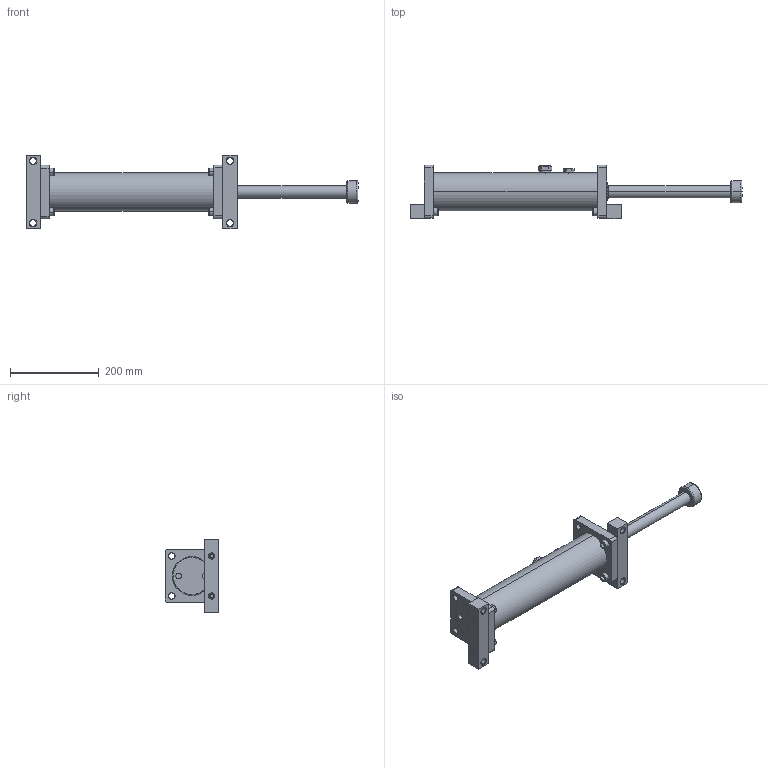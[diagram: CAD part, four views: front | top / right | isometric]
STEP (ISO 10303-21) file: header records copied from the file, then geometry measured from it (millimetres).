
FILE_DESCRIPTION (( 'STEP AP214' ), '1' );
FILE_NAME ('LDD1.5X10.STEP', '2019-01-16T01:42:38', ( 'user' ), ( 'Microsoft' ), 'SwSTEP 2.0', 'SolidWorks 2016', '' );
FILE_SCHEMA (( 'AUTOMOTIVE_DESIGN' ));
Length unit declared in the file: inch
Products named in the file (1): LDD1.5X10
Bounding box: 747 x 121 x 165 mm (x, y, z)
Surface area: 286087.8 mm2 (no closed solid volume)
Topology: 0 solids, 24 shells, 280 faces, 733 edges, 486 vertices
Faces by surface type: plane 98, cylinder 90, cone 62, bspline 30
Entity records: 14419 total; most frequent: CARTESIAN_POINT 7565, DIRECTION 1444, ORIENTED_EDGE 1330, EDGE_CURVE 733, AXIS2_PLACEMENT_3D 565, VERTEX_POINT 486, EDGE_LOOP 339, VECTOR 314
